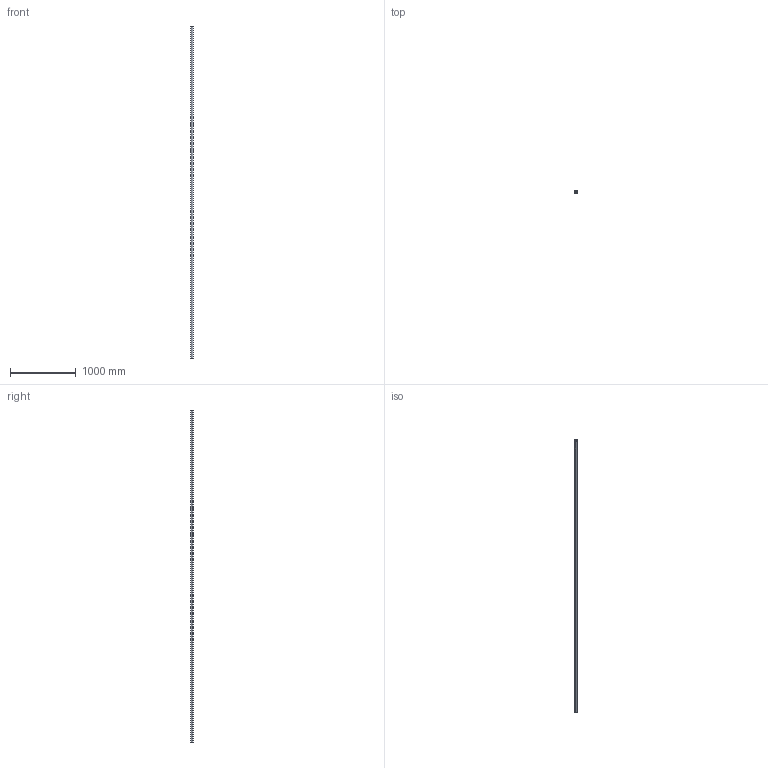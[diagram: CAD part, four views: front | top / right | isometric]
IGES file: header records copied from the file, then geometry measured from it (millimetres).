
Start section: SolidWorks IGES file using analytic representation for surfaces
Global section: file name: C:\Users\IanO\Desktop\L1771_v2\L1771.40_v2\L1771.40_v2_20230705_IGES\L1771.40-5050.igs; native system: SolidWorks 2019; preprocessor: SolidWorks 2019; author: IanO; date: 230705.162910; units: millimetre
Bounding box: 40 x 40 x 5050 mm (x, y, z)
Surface area: 1080104.7 mm2 (no closed solid volume)
Topology: 0 solids, 0 shells, 6 faces, 272 edges, 272 vertices
Faces by surface type: revolution 4, bspline 2
